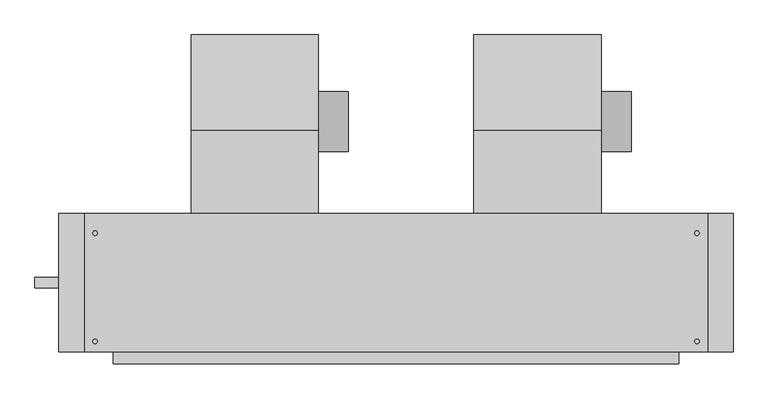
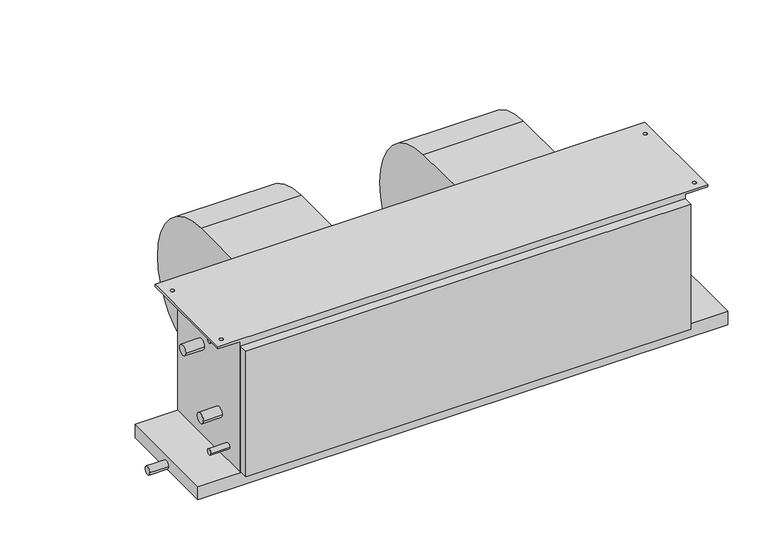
"""IFC4 building model written with IfcOpenShell, lengths in millimetres: proxy geometry, Concealed_High_Capacity_Horizontal_Fan_Coil_Unit_-_42DAA_-_CARRIER_-_4-Pipe_LH_2022 : Size 20 - 277v/60Hz/1Ph - 6/2 Coil."""

from ifc_helpers import new_model, si_unit, point, frame, frame_2d, origin, place, context, project, spatial, polyline, circle_curve, trimmed, segment, composite_curve, outline, extrude, source, transform, mapped, element, save
from ifc_brep_helpers import plane_surface, cylinder_surface, revolved_surface, advanced_brep


def mechanical_equipment_e01b4b51(model_context):
    return source(origin(), model_context, "Body", "SolidModel", [
        extrude(outline(composite_curve([segment(trimmed(circle_curve(frame_2d((117.8757598, -213.2397468)), 63.5), [point((181.3757598, -213.2397468))], [point((54.3757598, -213.2397468))], False, "CARTESIAN"), True, "CONTINUOUS"), segment(trimmed(circle_curve(frame_2d((117.8757598, -213.2397468)), 63.5), [point((54.3757598, -213.2397468))], [point((181.3757598, -213.2397468))], False, "CARTESIAN"), True, "CONTINUOUS")], self_intersect=False)), frame((115.062, 0.0, 0.0), z_axis=(1.0, 0.0, 0.0), x_axis=(0.0, 1.0, 0.0)), (0.0, 0.0, 1.0), 63.5),
        advanced_brep(
        [(-153.162, 301.3905957, -228.379602), (-153.162, 120.4976, -409.99664), (-153.162, -35.0266, -283.45638), (-153.162, -76.2, -283.45638), (-153.162, -76.2, -25.4), (-153.162, 98.8830093, -25.4), (115.062, 301.3905957, -228.379602), (115.062, 98.8830093, -25.4), (115.062, -76.2, -25.4), (115.062, -76.2, -283.45638), (115.062, -35.0266, -283.45638), (115.062, 120.497599, -409.9957839)],
        [
            (0, 1, circle_curve(frame((-153.162, 120.31726, -228.92258), z_axis=(-1.0, 0.0, 0.0), x_axis=(0.0, -1.0, 0.0)), 181.0741498)),
            (1, 2, circle_curve(frame((-153.162, 120.31726, -251.37364), z_axis=(-1.0, 0.0, 0.0), x_axis=(0.0, -1.0, 0.0)), 158.6222464)),
            (2, 3),
            (3, 4),
            (4, 5),
            (5, 0, circle_curve(frame((-153.162, 97.8662, -228.92258), z_axis=(-1.0, 0.0, 0.0), x_axis=(0.0, -1.0, 0.0)), 203.52512)),
            (6, 7, circle_curve(frame((115.062, 97.8662, -228.92258), z_axis=(1.0, 0.0, 0.0), x_axis=(0.0, -1.0, 0.0)), 203.52512)),
            (7, 8),
            (8, 9),
            (9, 10),
            (10, 11, circle_curve(frame((115.062, 120.31726, -251.37364), z_axis=(1.0, 0.0, 0.0), x_axis=(0.0, -1.0, 0.0)), 158.6222464)),
            (11, 6, circle_curve(frame((115.062, 120.31726, -228.92258), z_axis=(1.0, 0.0, 0.0), x_axis=(0.0, -1.0, 0.0)), 181.0741498)),
            (0, 6),
            (11, 1),
            (10, 2),
            (9, 3),
            (8, 4),
            (7, 5),
        ],
        [
            plane_surface(frame((-153.162, -60.7568898, -228.92258), z_axis=(-1.0, 0.0, 0.0), x_axis=(0.0, 0.0, 1.0))),
            plane_surface(frame((115.062, -60.7568898, -228.92258), z_axis=(1.0, 0.0, 0.0), x_axis=(0.0, 0.0, -1.0))),
            cylinder_surface(frame((115.062, 120.31726, -228.92258), z_axis=(-1.0, 0.0, 0.0), x_axis=(0.0, -1.0, 0.0)), 181.0741498),
            cylinder_surface(frame((115.062, 120.31726, -251.37364), z_axis=(-1.0, 0.0, 0.0), x_axis=(0.0, -1.0, 0.0)), 158.6222464),
            plane_surface(frame((-153.162, -35.0266, -283.45638), z_axis=(0.0, 0.0, -1.0), x_axis=(1.0, 0.0, 0.0))),
            plane_surface(frame((-153.162, -76.2, -283.45638), z_axis=(0.0, -1.0, 0.0), x_axis=(1.0, 0.0, 0.0))),
            plane_surface(frame((-153.162, -76.2, -25.4), z_axis=(0.0, 0.0, 1.0), x_axis=(1.0, 0.0, 0.0))),
            cylinder_surface(frame((115.062, 97.8662, -228.92258), z_axis=(-1.0, 0.0, 0.0), x_axis=(0.0, -1.0, 0.0)), 203.52512),
        ],
        [
            (0, [[1, 2, 3, 4, 5, 6]]),
            (1, [[7, 8, 9, 10, 11, 12]]),
            (2, [[-1, 13, -12, 14]]),
            (3, [[-2, -14, -11, 15]]),
            (4, [[-3, -15, -10, 16]]),
            (5, [[-4, -16, -9, 17]]),
            (6, [[-5, -17, -8, 18]]),
            (7, [[-6, -18, -7, -13]]),
        ],
    ),
        extrude(outline(composite_curve([segment(trimmed(circle_curve(frame_2d((117.8757598, -213.2397468)), 63.5), [point((181.3757598, -213.2397468))], [point((54.3757598, -213.2397468))], False, "CARTESIAN"), True, "CONTINUOUS"), segment(trimmed(circle_curve(frame_2d((117.8757598, -213.2397468)), 63.5), [point((54.3757598, -213.2397468))], [point((181.3757598, -213.2397468))], False, "CARTESIAN"), True, "CONTINUOUS")], self_intersect=False)), frame((711.962, 0.0, 0.0), z_axis=(1.0, 0.0, 0.0), x_axis=(0.0, 1.0, 0.0)), (0.0, 0.0, 1.0), 63.5),
        advanced_brep(
        [(443.738, 301.3905957, -228.379602), (443.738, 120.4976, -409.99664), (443.738, -35.0266, -283.45638), (443.738, -76.2, -283.45638), (443.738, -76.2, -25.4), (443.738, 98.8830093, -25.4), (711.962, 301.3905957, -228.379602), (711.962, 98.8830093, -25.4), (711.962, -76.2, -25.4), (711.962, -76.2, -283.45638), (711.962, -35.0266, -283.45638), (711.962, 120.497599, -409.9957839)],
        [
            (0, 1, circle_curve(frame((443.738, 120.31726, -228.92258), z_axis=(-1.0, 0.0, 0.0), x_axis=(0.0, -1.0, 0.0)), 181.0741498)),
            (1, 2, circle_curve(frame((443.738, 120.31726, -251.37364), z_axis=(-1.0, 0.0, 0.0), x_axis=(0.0, -1.0, 0.0)), 158.6222464)),
            (2, 3),
            (3, 4),
            (4, 5),
            (5, 0, circle_curve(frame((443.738, 97.8662, -228.92258), z_axis=(-1.0, 0.0, 0.0), x_axis=(0.0, -1.0, 0.0)), 203.52512)),
            (6, 7, circle_curve(frame((711.962, 97.8662, -228.92258), z_axis=(1.0, 0.0, 0.0), x_axis=(0.0, -1.0, 0.0)), 203.52512)),
            (7, 8),
            (8, 9),
            (9, 10),
            (10, 11, circle_curve(frame((711.962, 120.31726, -251.37364), z_axis=(1.0, 0.0, 0.0), x_axis=(0.0, -1.0, 0.0)), 158.6222464)),
            (11, 6, circle_curve(frame((711.962, 120.31726, -228.92258), z_axis=(1.0, 0.0, 0.0), x_axis=(0.0, -1.0, 0.0)), 181.0741498)),
            (0, 6),
            (11, 1),
            (10, 2),
            (9, 3),
            (8, 4),
            (7, 5),
        ],
        [
            plane_surface(frame((443.738, -60.7568898, -228.92258), z_axis=(-1.0, 0.0, 0.0), x_axis=(0.0, 0.0, 1.0))),
            plane_surface(frame((711.962, -60.7568898, -228.92258), z_axis=(1.0, 0.0, 0.0), x_axis=(0.0, 0.0, -1.0))),
            cylinder_surface(frame((711.962, 120.31726, -228.92258), z_axis=(-1.0, 0.0, 0.0), x_axis=(0.0, -1.0, 0.0)), 181.0741498),
            cylinder_surface(frame((711.962, 120.31726, -251.37364), z_axis=(-1.0, 0.0, 0.0), x_axis=(0.0, -1.0, 0.0)), 158.6222464),
            plane_surface(frame((443.738, -35.0266, -283.45638), z_axis=(0.0, 0.0, -1.0), x_axis=(1.0, 0.0, 0.0))),
            plane_surface(frame((443.738, -76.2, -283.45638), z_axis=(0.0, -1.0, 0.0), x_axis=(1.0, 0.0, 0.0))),
            plane_surface(frame((443.738, -76.2, -25.4), z_axis=(0.0, 0.0, 1.0), x_axis=(1.0, 0.0, 0.0))),
            cylinder_surface(frame((711.962, 97.8662, -228.92258), z_axis=(-1.0, 0.0, 0.0), x_axis=(0.0, -1.0, 0.0)), 203.52512),
        ],
        [
            (0, [[1, 2, 3, 4, 5, 6]]),
            (1, [[7, 8, 9, 10, 11, 12]]),
            (2, [[-1, 13, -12, 14]]),
            (3, [[-2, -14, -11, 15]]),
            (4, [[-3, -15, -10, 16]]),
            (5, [[-4, -16, -9, 17]]),
            (6, [[-5, -17, -8, 18]]),
            (7, [[-6, -18, -7, -13]]),
        ],
    ),
        extrude(outline(polyline([(990.6, -76.2), (990.6, -368.3), (-431.8, -368.3), (-431.8, -76.2), (990.6, -76.2)])), frame((0.0, 0.0, -415.925), z_axis=(0.0, 0.0, 1.0), x_axis=(1.0, 0.0, 0.0)), (0.0, 0.0, 1.0), 38.1),
        extrude(outline(polyline([(876.3, -393.7), (-317.5, -393.7), (-317.5, -368.3), (876.3, -368.3), (876.3, -393.7)])), frame((0.0, 0.0, -374.65), z_axis=(0.0, 0.0, 1.0), x_axis=(1.0, 0.0, 0.0)), (0.0, 0.0, 1.0), 355.6),
        extrude(outline(composite_curve([segment(trimmed(circle_curve(frame_2d((-222.25, -403.225)), 11.1125), [point((-233.3625, -403.225))], [point((-211.1375, -403.225))], False, "CARTESIAN"), True, "CONTINUOUS"), segment(trimmed(circle_curve(frame_2d((-222.25, -403.225)), 11.1125), [point((-211.1375, -403.225))], [point((-233.3625, -403.225))], False, "CARTESIAN"), True, "CONTINUOUS")], self_intersect=False)), frame((-482.6, 0.0, 0.0), z_axis=(1.0, 0.0, 0.0), x_axis=(0.0, 1.0, 0.0)), (0.0, 0.0, 1.0), 50.8),
        extrude(outline(composite_curve([segment(trimmed(circle_curve(frame_2d((-187.325, -122.2375)), 14.2875), [point((-201.6125, -122.2375))], [point((-173.0375, -122.2375))], False, "CARTESIAN"), True, "CONTINUOUS"), segment(trimmed(circle_curve(frame_2d((-187.325, -122.2375)), 14.2875), [point((-173.0375, -122.2375))], [point((-201.6125, -122.2375))], False, "CARTESIAN"), True, "CONTINUOUS")], self_intersect=False)), frame((-368.3, 0.0, 0.0), z_axis=(1.0, 0.0, 0.0), x_axis=(0.0, 1.0, 0.0)), (0.0, 0.0, 1.0), 50.8),
        extrude(outline(composite_curve([segment(trimmed(circle_curve(frame_2d((-269.875, -265.1125)), 14.2875), [point((-284.1625, -265.1125))], [point((-255.5875, -265.1125))], False, "CARTESIAN"), True, "CONTINUOUS"), segment(trimmed(circle_curve(frame_2d((-269.875, -265.1125)), 14.2875), [point((-255.5875, -265.1125))], [point((-284.1625, -265.1125))], False, "CARTESIAN"), True, "CONTINUOUS")], self_intersect=False)), frame((-368.3, 0.0, 0.0), z_axis=(1.0, 0.0, 0.0), x_axis=(0.0, 1.0, 0.0)), (0.0, 0.0, 1.0), 50.8),
        extrude(outline(composite_curve([segment(trimmed(circle_curve(frame_2d((-311.15, -19.05)), 7.9375), [point((-319.0875, -19.05))], [point((-303.2125, -19.05))], False, "CARTESIAN"), True, "CONTINUOUS"), segment(trimmed(circle_curve(frame_2d((-311.15, -19.05)), 7.9375), [point((-303.2125, -19.05))], [point((-319.0875, -19.05))], False, "CARTESIAN"), True, "CONTINUOUS")], self_intersect=False)), frame((-368.3, 0.0, 0.0), z_axis=(1.0, 0.0, 0.0), x_axis=(0.0, 1.0, 0.0)), (0.0, 0.0, 1.0), 50.8),
        extrude(outline(composite_curve([segment(trimmed(circle_curve(frame_2d((-311.15, -336.55)), 7.9375), [point((-319.0875, -336.55))], [point((-303.2125, -336.55))], False, "CARTESIAN"), True, "CONTINUOUS"), segment(trimmed(circle_curve(frame_2d((-311.15, -336.55)), 7.9375), [point((-303.2125, -336.55))], [point((-319.0875, -336.55))], False, "CARTESIAN"), True, "CONTINUOUS")], self_intersect=False)), frame((-368.3, 0.0, 0.0), z_axis=(1.0, 0.0, 0.0), x_axis=(0.0, 1.0, 0.0)), (0.0, 0.0, 1.0), 50.8),
        advanced_brep(
        [(876.3, -76.2, -377.825), (876.3, -368.3, -377.825), (-317.5, -368.3, -377.825), (-317.5, -76.2, -377.825), (-317.5, -368.3, -6.35), (-317.5, -76.2, -6.35), (876.3, -76.2, -6.35), (876.3, -368.3, -6.35), (-377.825, -76.2, 0.0), (-377.825, -368.3, 0.0), (936.625, -368.3, 0.0), (936.625, -76.2, 0.0), (-350.8375, -117.475, 0.0), (-360.3625, -117.475, 0.0), (-350.8375, -346.075, 0.0), (-360.3625, -346.075, 0.0), (919.1625, -117.475, 0.0), (909.6375, -117.475, 0.0), (919.1625, -346.075, 0.0), (909.6375, -346.075, 0.0), (-377.825, -76.2, -6.35), (-377.825, -368.3, -6.35), (-360.3625, -117.475, -6.35), (-350.8375, -117.475, -6.35), (-360.3625, -346.075, -6.35), (-350.8375, -346.075, -6.35), (936.625, -76.2, -6.35), (936.625, -368.3, -6.35), (909.6375, -117.475, -6.35), (919.1625, -117.475, -6.35), (909.6375, -346.075, -6.35), (919.1625, -346.075, -6.35)],
        [
            (0, 1),
            (1, 2),
            (2, 3),
            (3, 0),
            (2, 4),
            (4, 5),
            (5, 3),
            (0, 6),
            (6, 7),
            (7, 1),
            (8, 9),
            (9, 10),
            (10, 11),
            (11, 8),
            (12, 13, circle_curve(frame((-355.6, -117.475, 0.0), z_axis=(0.0, 0.0, -1.0), x_axis=(1.0, 0.0, 0.0)), 4.7625)),
            (13, 12, circle_curve(frame((-355.6, -117.475, 0.0), z_axis=(0.0, 0.0, -1.0), x_axis=(1.0, 0.0, 0.0)), 4.7625)),
            (14, 15, circle_curve(frame((-355.6, -346.075, 0.0), z_axis=(0.0, 0.0, -1.0), x_axis=(1.0, 0.0, 0.0)), 4.7625)),
            (15, 14, circle_curve(frame((-355.6, -346.075, 0.0), z_axis=(0.0, 0.0, -1.0), x_axis=(1.0, 0.0, 0.0)), 4.7625)),
            (16, 17, circle_curve(frame((914.4, -117.475, 0.0), z_axis=(0.0, 0.0, -1.0), x_axis=(1.0, 0.0, 0.0)), 4.7625)),
            (17, 16, circle_curve(frame((914.4, -117.475, 0.0), z_axis=(0.0, 0.0, -1.0), x_axis=(1.0, 0.0, 0.0)), 4.7625)),
            (18, 19, circle_curve(frame((914.4, -346.075, 0.0), z_axis=(0.0, 0.0, -1.0), x_axis=(1.0, 0.0, 0.0)), 4.7625)),
            (19, 18, circle_curve(frame((914.4, -346.075, 0.0), z_axis=(0.0, 0.0, -1.0), x_axis=(1.0, 0.0, 0.0)), 4.7625)),
            (20, 5),
            (4, 21),
            (21, 20),
            (22, 23, circle_curve(frame((-355.6, -117.475, -6.35), z_axis=(0.0, 0.0, 1.0), x_axis=(1.0, 0.0, 0.0)), 4.7625)),
            (23, 22, circle_curve(frame((-355.6, -117.475, -6.35), z_axis=(0.0, 0.0, 1.0), x_axis=(1.0, 0.0, 0.0)), 4.7625)),
            (24, 25, circle_curve(frame((-355.6, -346.075, -6.35), z_axis=(0.0, 0.0, 1.0), x_axis=(1.0, 0.0, 0.0)), 4.7625)),
            (25, 24, circle_curve(frame((-355.6, -346.075, -6.35), z_axis=(0.0, 0.0, 1.0), x_axis=(1.0, 0.0, 0.0)), 4.7625)),
            (26, 27),
            (27, 7),
            (6, 26),
            (28, 29, circle_curve(frame((914.4, -117.475, -6.35), z_axis=(0.0, 0.0, 1.0), x_axis=(1.0, 0.0, 0.0)), 4.7625)),
            (29, 28, circle_curve(frame((914.4, -117.475, -6.35), z_axis=(0.0, 0.0, 1.0), x_axis=(1.0, 0.0, 0.0)), 4.7625)),
            (30, 31, circle_curve(frame((914.4, -346.075, -6.35), z_axis=(0.0, 0.0, 1.0), x_axis=(1.0, 0.0, 0.0)), 4.7625)),
            (31, 30, circle_curve(frame((914.4, -346.075, -6.35), z_axis=(0.0, 0.0, 1.0), x_axis=(1.0, 0.0, 0.0)), 4.7625)),
            (8, 20),
            (21, 9),
            (27, 10),
            (11, 26),
            (12, 23),
            (22, 13),
            (14, 25),
            (24, 15),
            (16, 29),
            (28, 17),
            (18, 31),
            (30, 19),
        ],
        [
            plane_surface(frame((-317.5, -76.2, -377.825), z_axis=(0.0, 0.0, -1.0), x_axis=(1.0, 0.0, 0.0))),
            plane_surface(frame((-317.5, -76.2, 0.0), z_axis=(-1.0, 0.0, 0.0), x_axis=(0.0, 0.0, -1.0))),
            plane_surface(frame((876.3, -368.3, 0.0), z_axis=(1.0, 0.0, 0.0), x_axis=(0.0, 0.0, -1.0))),
            plane_surface(frame((-377.825, -76.2, 0.0), z_axis=(0.0, 0.0, 1.0), x_axis=(0.0, -1.0, 0.0))),
            plane_surface(frame((-377.825, -76.2, -6.35), z_axis=(0.0, 0.0, -1.0), x_axis=(0.0, 1.0, 0.0))),
            plane_surface(frame((-377.825, -76.2, 0.0), z_axis=(-1.0, 0.0, 0.0), x_axis=(0.0, 0.0, -1.0))),
            plane_surface(frame((-377.825, -368.3, 0.0), z_axis=(0.0, -1.0, 0.0), x_axis=(0.0, 0.0, -1.0))),
            plane_surface(frame((-317.5, -76.2, 0.0), z_axis=(0.0, 1.0, 0.0), x_axis=(0.0, 0.0, -1.0))),
            plane_surface(frame((936.625, -368.3, 0.0), z_axis=(1.0, 0.0, 0.0), x_axis=(0.0, 0.0, -1.0))),
            revolved_surface(polyline([(-350.83750000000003, -117.475, 0.0), (-350.83750000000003, -117.475, -6.35)]), (-355.6, -117.475, -6.35), (0.0, 0.0, 1.0)),
            revolved_surface(polyline([(-350.83750000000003, -346.075, 0.0), (-350.83750000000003, -346.075, -6.35)]), (-355.6, -346.075, 0.0), (0.0, 0.0, 1.0)),
            revolved_surface(polyline([(919.1625, -117.475, 0.0), (919.1625, -117.475, -6.35)]), (914.4, -117.475, 0.0), (0.0, 0.0, 1.0)),
            revolved_surface(polyline([(919.1625, -346.075, 0.0), (919.1625, -346.075, -6.35)]), (914.4, -346.075, 0.0), (0.0, 0.0, 1.0)),
        ],
        [
            (0, [[1, 2, 3, 4]]),
            (1, [[-3, 5, 6, 7]]),
            (2, [[-1, 8, 9, 10]]),
            (3, [[11, 12, 13, 14], [15, 16], [17, 18], [19, 20], [21, 22]]),
            (4, [[23, -6, 24, 25], [26, 27], [28, 29]]),
            (4, [[30, 31, -9, 32], [33, 34], [35, 36]]),
            (5, [[-11, 37, -25, 38]]),
            (6, [[-12, -38, -24, -5, -2, -10, -31, 39]]),
            (7, [[-14, 40, -32, -8, -4, -7, -23, -37]]),
            (8, [[-13, -39, -30, -40]]),
            (9, [[41, -26, 42, -15]]),
            (9, [[-41, -16, -42, -27]]),
            (10, [[43, -28, 44, -17]]),
            (10, [[-43, -18, -44, -29]]),
            (11, [[45, -33, 46, -19]]),
            (11, [[-45, -20, -46, -34]]),
            (12, [[47, -35, 48, -21]]),
            (12, [[-47, -22, -48, -36]]),
        ],
    ),
    ])


if __name__ == "__main__":
    model = new_model("IFC4")
    model_context = context("Model", 3, world=origin())
    ifc_project = project(units=[si_unit("LENGTHUNIT", "METRE", prefix="MILLI")], contexts=[model_context])
    site = spatial("IfcSite", under=ifc_project)
    building = spatial("IfcBuilding", under=site)
    placement = place(None, origin())
    mechanical_equipment_shape = mechanical_equipment_e01b4b51(model_context)
    element("IfcBuildingElementProxy", 1, Name="Concealed_High_Capacity_Horizontal_Fan_Coil_Unit_-_42DAA_-_CARRIER_-_4-Pipe_LH_2022 : Size 20 - 277v/60Hz/1Ph - 6/2 Coil", ObjectType="Concealed_High_Capacity_Horizontal_Fan_Coil_Unit_-_42DAA_-_CARRIER_-_4-Pipe_LH_2022 : Size 20 - 277v/60Hz/1Ph - 6/2 Coil", at=placement, inside=building, context=model_context, shape_type="MappedRepresentation", body=[
        mapped(mechanical_equipment_shape, transform((0.0, 0.0, 0.0), x_axis=(1.0, 0.0, 0.0), y_axis=(0.0, 1.0, 0.0), z_axis=(0.0, 0.0, 1.0))),
    ])
    save(model, "model.ifc")
